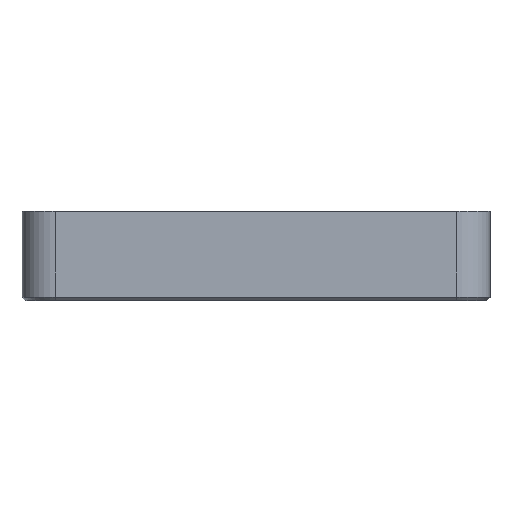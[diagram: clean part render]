
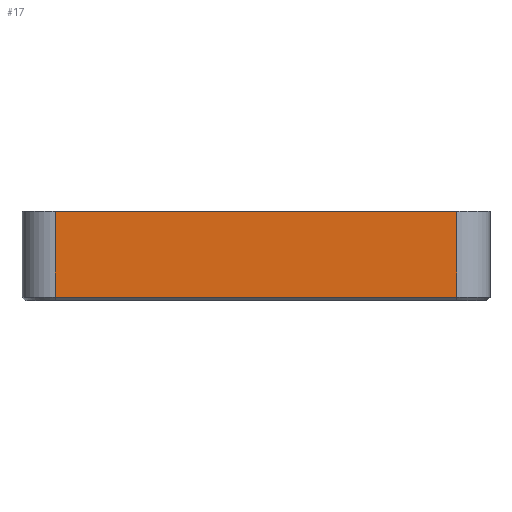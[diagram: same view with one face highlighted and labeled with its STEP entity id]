
A CAD part, left-side view. The second image highlights one B-rep face of the part: STEP entity #17.
In plain terms, the highlighted planar face has unit normal (-1, 0, 0).
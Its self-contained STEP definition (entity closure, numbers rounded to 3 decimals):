
#17 = ADVANCED_FACE('',(#18),#32,.F.);
#18 = FACE_BOUND('',#19,.F.);
#19 = EDGE_LOOP('',(#20,#55,#83,#111));
#20 = ORIENTED_EDGE('',*,*,#21,.F.);
#21 = EDGE_CURVE('',#22,#24,#26,.T.);
#22 = VERTEX_POINT('',#23);
#23 = CARTESIAN_POINT('',(-32.,-36.,0.6));
#24 = VERTEX_POINT('',#25);
#25 = CARTESIAN_POINT('',(-32.,-36.,16.));
#26 = SURFACE_CURVE('',#27,(#31,#43),.PCURVE_S1.);
#27 = LINE('',#28,#29);
#28 = CARTESIAN_POINT('',(-32.,-36.,0.));
#29 = VECTOR('',#30,1.);
#30 = DIRECTION('',(0.,0.,1.));
#31 = PCURVE('',#32,#37);
#32 = PLANE('',#33);
#33 = AXIS2_PLACEMENT_3D('',#34,#35,#36);
#34 = CARTESIAN_POINT('',(-32.,-42.,0.));
#35 = DIRECTION('',(1.,0.,0.));
#36 = DIRECTION('',(0.,0.,1.));
#37 = DEFINITIONAL_REPRESENTATION('',(#38),#42);
#38 = LINE('',#39,#40);
#39 = CARTESIAN_POINT('',(0.,-6.));
#40 = VECTOR('',#41,1.);
#41 = DIRECTION('',(1.,0.));
#42 = ( GEOMETRIC_REPRESENTATION_CONTEXT(2) 
PARAMETRIC_REPRESENTATION_CONTEXT() REPRESENTATION_CONTEXT('2D SPACE',''
  ) );
#43 = PCURVE('',#44,#49);
#44 = CYLINDRICAL_SURFACE('',#45,6.);
#45 = AXIS2_PLACEMENT_3D('',#46,#47,#48);
#46 = CARTESIAN_POINT('',(-26.,-36.,0.));
#47 = DIRECTION('',(0.,0.,1.));
#48 = DIRECTION('',(-1.,-0.,0.));
#49 = DEFINITIONAL_REPRESENTATION('',(#50),#54);
#50 = LINE('',#51,#52);
#51 = CARTESIAN_POINT('',(0.,0.));
#52 = VECTOR('',#53,1.);
#53 = DIRECTION('',(0.,1.));
#54 = ( GEOMETRIC_REPRESENTATION_CONTEXT(2) 
PARAMETRIC_REPRESENTATION_CONTEXT() REPRESENTATION_CONTEXT('2D SPACE',''
  ) );
#55 = ORIENTED_EDGE('',*,*,#56,.T.);
#56 = EDGE_CURVE('',#22,#57,#59,.T.);
#57 = VERTEX_POINT('',#58);
#58 = CARTESIAN_POINT('',(-32.,36.,0.6));
#59 = SURFACE_CURVE('',#60,(#64,#71),.PCURVE_S1.);
#60 = LINE('',#61,#62);
#61 = CARTESIAN_POINT('',(-32.,-36.,0.6));
#62 = VECTOR('',#63,1.);
#63 = DIRECTION('',(0.,1.,0.));
#64 = PCURVE('',#32,#65);
#65 = DEFINITIONAL_REPRESENTATION('',(#66),#70);
#66 = LINE('',#67,#68);
#67 = CARTESIAN_POINT('',(0.6,-6.));
#68 = VECTOR('',#69,1.);
#69 = DIRECTION('',(0.,-1.));
#70 = ( GEOMETRIC_REPRESENTATION_CONTEXT(2) 
PARAMETRIC_REPRESENTATION_CONTEXT() REPRESENTATION_CONTEXT('2D SPACE',''
  ) );
#71 = PCURVE('',#72,#77);
#72 = PLANE('',#73);
#73 = AXIS2_PLACEMENT_3D('',#74,#75,#76);
#74 = CARTESIAN_POINT('',(-31.7,-36.,0.3));
#75 = DIRECTION('',(-0.707,0.,-0.707));
#76 = DIRECTION('',(0.,1.,0.));
#77 = DEFINITIONAL_REPRESENTATION('',(#78),#82);
#78 = LINE('',#79,#80);
#79 = CARTESIAN_POINT('',(0.,-0.424));
#80 = VECTOR('',#81,1.);
#81 = DIRECTION('',(1.,0.));
#82 = ( GEOMETRIC_REPRESENTATION_CONTEXT(2) 
PARAMETRIC_REPRESENTATION_CONTEXT() REPRESENTATION_CONTEXT('2D SPACE',''
  ) );
#83 = ORIENTED_EDGE('',*,*,#84,.T.);
#84 = EDGE_CURVE('',#57,#85,#87,.T.);
#85 = VERTEX_POINT('',#86);
#86 = CARTESIAN_POINT('',(-32.,36.,16.));
#87 = SURFACE_CURVE('',#88,(#92,#99),.PCURVE_S1.);
#88 = LINE('',#89,#90);
#89 = CARTESIAN_POINT('',(-32.,36.,0.));
#90 = VECTOR('',#91,1.);
#91 = DIRECTION('',(0.,0.,1.));
#92 = PCURVE('',#32,#93);
#93 = DEFINITIONAL_REPRESENTATION('',(#94),#98);
#94 = LINE('',#95,#96);
#95 = CARTESIAN_POINT('',(0.,-78.));
#96 = VECTOR('',#97,1.);
#97 = DIRECTION('',(1.,0.));
#98 = ( GEOMETRIC_REPRESENTATION_CONTEXT(2) 
PARAMETRIC_REPRESENTATION_CONTEXT() REPRESENTATION_CONTEXT('2D SPACE',''
  ) );
#99 = PCURVE('',#100,#105);
#100 = CYLINDRICAL_SURFACE('',#101,6.);
#101 = AXIS2_PLACEMENT_3D('',#102,#103,#104);
#102 = CARTESIAN_POINT('',(-26.,36.,0.));
#103 = DIRECTION('',(0.,0.,1.));
#104 = DIRECTION('',(-1.,-0.,0.));
#105 = DEFINITIONAL_REPRESENTATION('',(#106),#110);
#106 = LINE('',#107,#108);
#107 = CARTESIAN_POINT('',(-0.,0.));
#108 = VECTOR('',#109,1.);
#109 = DIRECTION('',(-0.,1.));
#110 = ( GEOMETRIC_REPRESENTATION_CONTEXT(2) 
PARAMETRIC_REPRESENTATION_CONTEXT() REPRESENTATION_CONTEXT('2D SPACE',''
  ) );
#111 = ORIENTED_EDGE('',*,*,#112,.F.);
#112 = EDGE_CURVE('',#24,#85,#113,.T.);
#113 = SURFACE_CURVE('',#114,(#118,#125),.PCURVE_S1.);
#114 = LINE('',#115,#116);
#115 = CARTESIAN_POINT('',(-32.,-42.,16.));
#116 = VECTOR('',#117,1.);
#117 = DIRECTION('',(0.,1.,0.));
#118 = PCURVE('',#32,#119);
#119 = DEFINITIONAL_REPRESENTATION('',(#120),#124);
#120 = LINE('',#121,#122);
#121 = CARTESIAN_POINT('',(16.,0.));
#122 = VECTOR('',#123,1.);
#123 = DIRECTION('',(0.,-1.));
#124 = ( GEOMETRIC_REPRESENTATION_CONTEXT(2) 
PARAMETRIC_REPRESENTATION_CONTEXT() REPRESENTATION_CONTEXT('2D SPACE',''
  ) );
#125 = PCURVE('',#126,#131);
#126 = PLANE('',#127);
#127 = AXIS2_PLACEMENT_3D('',#128,#129,#130);
#128 = CARTESIAN_POINT('',(-32.,-42.,16.));
#129 = DIRECTION('',(0.,0.,1.));
#130 = DIRECTION('',(1.,0.,0.));
#131 = DEFINITIONAL_REPRESENTATION('',(#132),#136);
#132 = LINE('',#133,#134);
#133 = CARTESIAN_POINT('',(0.,0.));
#134 = VECTOR('',#135,1.);
#135 = DIRECTION('',(0.,1.));
#136 = ( GEOMETRIC_REPRESENTATION_CONTEXT(2) 
PARAMETRIC_REPRESENTATION_CONTEXT() REPRESENTATION_CONTEXT('2D SPACE',''
  ) );
